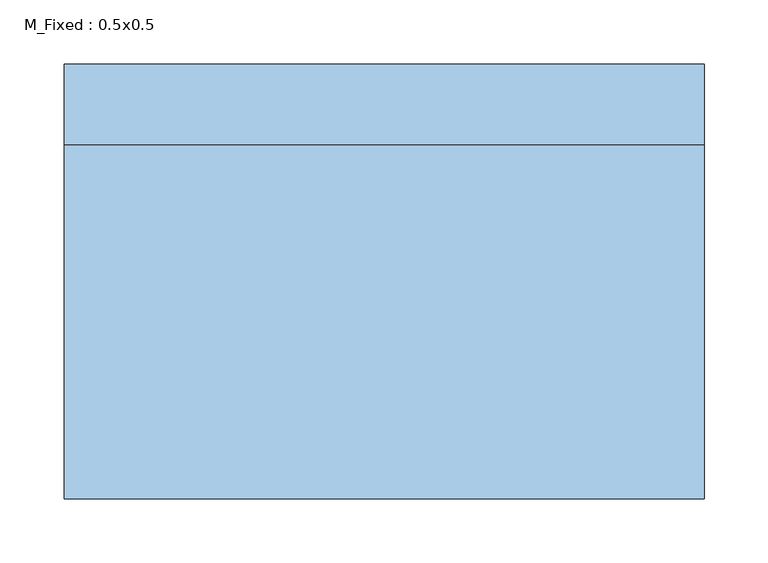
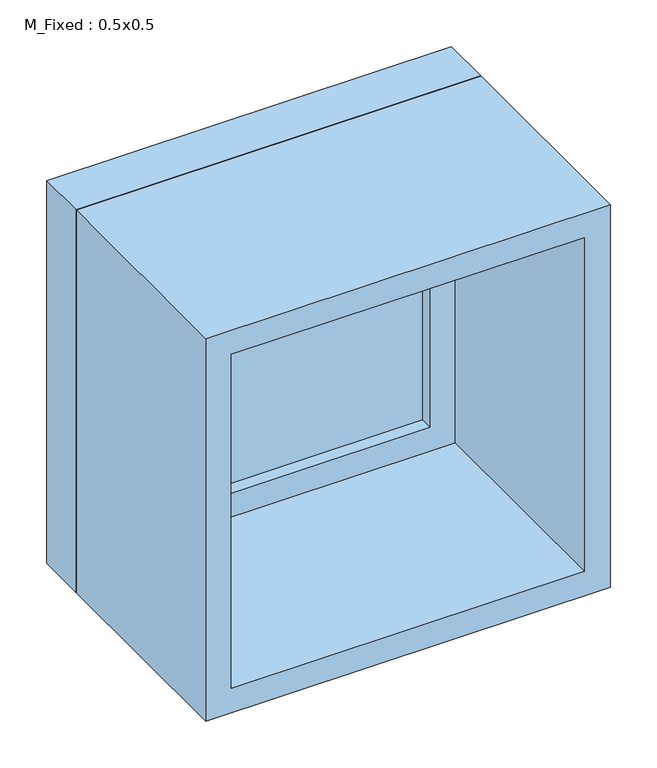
"""IFC4 building model written with IfcOpenShell, lengths in millimetres: window geometry, M_Fixed : 0.5x0.5."""

from ifc_helpers import new_model, si_unit, frame, origin, place, context, project, spatial, polyline, outline, extrude, source, transform, mapped, element, save


def m_fixed_0_5x0_5_7bd07c47(model_context):
    return source(origin(), model_context, "Body", "SweptSolid", [
        extrude(outline(polyline([(-187.0, 148.0), (187.0, 148.0), (187.0, 136.0), (-187.0, 136.0), (-187.0, 148.0)])), frame((0.0, 0.0, 978.0), z_axis=(0.0, 0.0, 1.0), x_axis=(1.0, 0.0, 0.0)), (0.0, 0.0, 1.0), 374.0),
        extrude(outline(polyline([(1396.0, -231.0), (934.0, -231.0), (934.0, 231.0), (1396.0, 231.0), (1396.0, -231.0)]), holes=[polyline([(1352.0, -187.0), (1352.0, 187.0), (978.0, 187.0), (978.0, -187.0), (1352.0, -187.0)])]), frame((0.0, 120.0, 0.0), z_axis=(0.0, 1.0, 0.0), x_axis=(0.0, 0.0, 1.0)), (0.0, 0.0, 1.0), 44.0),
        extrude(outline(polyline([(1415.0, -250.0), (915.0, -250.0), (915.0, 250.0), (1415.0, 250.0), (1415.0, -250.0)]), holes=[polyline([(1396.0, -231.0), (1396.0, 231.0), (934.0, 231.0), (934.0, -231.0), (1396.0, -231.0)])]), frame((0.0, 120.0, 0.0), z_axis=(0.0, 1.0, 0.0), x_axis=(0.0, 0.0, 1.0)), (0.0, 0.0, 1.0), 63.0),
        extrude(outline(polyline([(1415.0, -250.0), (915.0, -250.0), (915.0, 250.0), (1415.0, 250.0), (1415.0, -250.0)]), holes=[polyline([(1383.0, -218.0), (1383.0, 218.0), (947.0, 218.0), (947.0, -218.0), (1383.0, -218.0)])]), frame((0.0, -157.0, 0.0), z_axis=(0.0, 1.0, 0.0), x_axis=(0.0, 0.0, 1.0)), (0.0, 0.0, 1.0), 277.0),
    ])


if __name__ == "__main__":
    model = new_model("IFC4")
    model_context = context("Model", 3, world=origin())
    ifc_project = project(units=[si_unit("LENGTHUNIT", "METRE", prefix="MILLI")], contexts=[model_context])
    site = spatial("IfcSite", under=ifc_project)
    building = spatial("IfcBuilding", under=site)
    placement = place(None, origin())
    m_fixed_0_5x0_5_shape = m_fixed_0_5x0_5_7bd07c47(model_context)
    element("IfcWindow", 1, ObjectType="M_Fixed : 0.5x0.5", at=placement, inside=building, context=model_context, shape_type="MappedRepresentation", body=[
        mapped(m_fixed_0_5x0_5_shape, transform((0.0, 0.0, 0.0), x_axis=(1.0, 0.0, 0.0), y_axis=(0.0, 1.0, 0.0), z_axis=(0.0, 0.0, 1.0))),
    ])
    save(model, "model.ifc")
